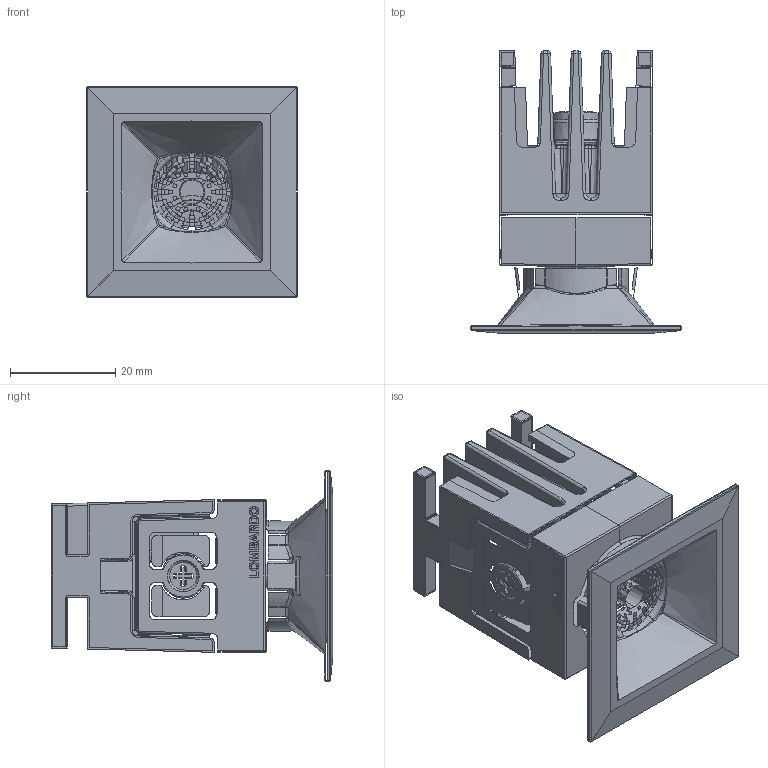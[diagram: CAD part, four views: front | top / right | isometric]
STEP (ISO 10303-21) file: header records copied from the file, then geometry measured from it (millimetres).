
FILE_DESCRIPTION((''),'2;1');
FILE_NAME('RAPPR_DI_DEFAULT_SW0001','2025-07-23T12:10:23',('Piccioli'),(''),'CREO PARAMETRIC BY PTC INC, 2025010','CREO PARAMETRIC BY PTC INC, 2025010','');
FILE_SCHEMA(('CONFIG_CONTROL_DESIGN'));
Length unit declared in the file: millimetre
Products named in the file (1): RAPPR_DI_DEFAULT_SW0001
Bounding box: 39.98 x 53.55 x 39.99 mm (x, y, z)
Surface area: 14577.8 mm2 (no closed solid volume)
Topology: 0 solids, 142 shells, 456 faces, 2985 edges, 2658 vertices
Faces by surface type: plane 154, torus 109, cylinder 91, bspline 72, cone 14, sphere 8, extrusion 8
Entity records: 39164 total; most frequent: CARTESIAN_POINT 20170, ORIENTED_EDGE 3465, EDGE_CURVE 2985, DIRECTION 2955, VERTEX_POINT 2658, B_SPLINE_CURVE_WITH_KNOTS 1388, VECTOR 1023, LINE 1015
